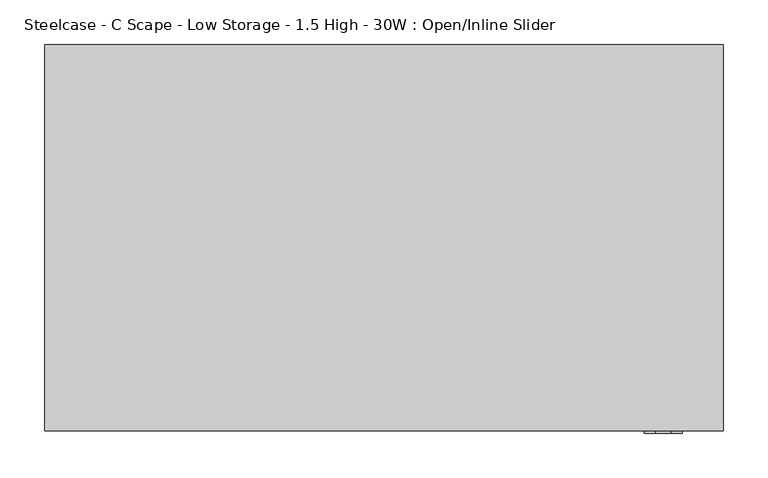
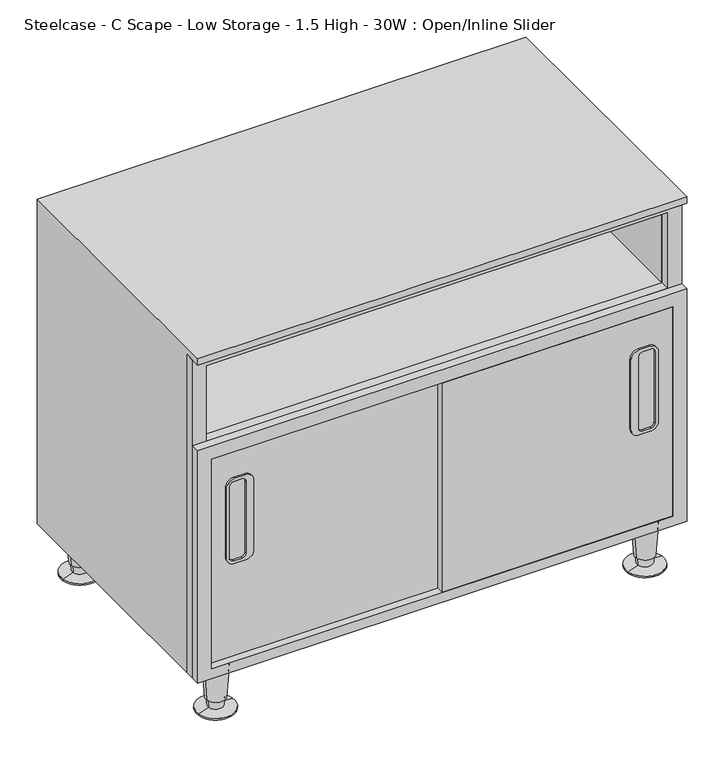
"""IFC4 building model written with IfcOpenShell, lengths in millimetres: furniture geometry, Steelcase - C Scape - Low Storage - 1.5 High - 30W : Open/Inline Slider."""

from ifc_helpers import new_model, si_unit, point, frame, frame_2d, origin, place, context, project, spatial, polyline, circle_curve, trimmed, segment, composite_curve, outline, extrude, faceted_brep, source, transform, mapped, element, save
from ifc_brep_helpers import plane_surface, cylinder_surface, revolved_surface, advanced_brep


def steelcase_c_scape_low_storage_1_5_high_30w_open_inline_42fbe061(model_context):
    return source(origin(), model_context, "Body", "SolidModel", [
        extrude(outline(composite_curve([segment(trimmed(circle_curve(frame_2d((373.5963095, 685.0136914)), 12.7015503), [point((386.2978598, 685.0136914))], [point((373.5963095, 672.3121411))], False, "CARTESIAN"), True, "CONTINUOUS"), segment(polyline([(373.5963095, 672.3121411), (259.2993979, 672.3121411)]), True, "CONTINUOUS"), segment(trimmed(circle_curve(frame_2d((259.2993979, 685.0136914)), 12.7015503), [point((259.2993979, 672.3121411))], [point((246.5978477, 685.0136914))], False, "CARTESIAN"), True, "CONTINUOUS"), segment(polyline([(246.5978477, 685.0136914), (246.5978477, 701.902577)]), True, "CONTINUOUS"), segment(trimmed(circle_curve(frame_2d((259.2978537, 701.902577)), 12.7000061), [point((246.5978477, 701.902577))], [point((259.2978537, 714.602583))], False, "CARTESIAN"), True, "CONTINUOUS"), segment(polyline([(259.2978537, 714.602583), (373.6009603, 714.602583)]), True, "CONTINUOUS"), segment(trimmed(circle_curve(frame_2d((373.6009603, 701.9056836)), 12.6968994), [point((373.6009603, 714.602583))], [point((386.2978598, 701.9056836))], False, "CARTESIAN"), True, "CONTINUOUS"), segment(polyline([(386.2978598, 701.9056836), (386.2978598, 685.0136914)]), True, "CONTINUOUS")], self_intersect=False), holes=[composite_curve([segment(trimmed(circle_curve(frame_2d((257.7496016, 703.426521)), 6.3531006), [point((257.7496016, 709.7796216))], [point((251.396501, 703.426521))], True, "CARTESIAN"), True, "CONTINUOUS"), segment(polyline([(251.396501, 703.426521), (251.396501, 690.7296216)]), True, "CONTINUOUS"), segment(trimmed(circle_curve(frame_2d((257.7496016, 690.7296216)), 6.3531006), [point((251.396501, 690.7296216))], [point((257.7496016, 684.376521))], True, "CARTESIAN"), True, "CONTINUOUS"), segment(polyline([(257.7496016, 684.376521), (375.0913854, 684.376521)]), True, "CONTINUOUS"), segment(trimmed(circle_curve(frame_2d((375.0913854, 690.7296216)), 6.3531006), [point((375.0913854, 684.376521))], [point((381.444486, 690.7296216))], True, "CARTESIAN"), True, "CONTINUOUS"), segment(polyline([(381.444486, 690.7296216), (381.444486, 703.426521)]), True, "CONTINUOUS"), segment(trimmed(circle_curve(frame_2d((375.0913854, 703.426521)), 6.3531006), [point((381.444486, 703.426521))], [point((375.0913854, 709.7796216))], True, "CARTESIAN"), True, "CONTINUOUS"), segment(polyline([(375.0913854, 709.7796216), (257.7496016, 709.7796216)]), True, "CONTINUOUS")], self_intersect=False)]), frame((0.0, -436.1182586, 0.0), z_axis=(0.0, 1.0, 0.0), x_axis=(0.0, 0.0, 1.0)), (0.0, 0.0, 1.0), 3.0482586),
        extrude(outline(composite_curve([segment(polyline([(386.2978598, 79.2484961), (386.2978598, 62.3565039)]), True, "CONTINUOUS"), segment(trimmed(circle_curve(frame_2d((373.6009603, 62.3565039)), 12.6968994), [point((386.2978598, 62.3565039))], [point((373.6009603, 49.6596045))], False, "CARTESIAN"), True, "CONTINUOUS"), segment(polyline([(373.6009603, 49.6596045), (259.2978537, 49.6596045)]), True, "CONTINUOUS"), segment(trimmed(circle_curve(frame_2d((259.2978537, 62.3596105)), 12.7000061), [point((259.2978537, 49.6596045))], [point((246.5978477, 62.3596105))], False, "CARTESIAN"), True, "CONTINUOUS"), segment(polyline([(246.5978477, 62.3596105), (246.5978477, 79.2484961)]), True, "CONTINUOUS"), segment(trimmed(circle_curve(frame_2d((259.2993979, 79.2484961)), 12.7015503), [point((246.5978477, 79.2484961))], [point((259.2993979, 91.9500464))], False, "CARTESIAN"), True, "CONTINUOUS"), segment(polyline([(259.2993979, 91.9500464), (373.5963095, 91.9500464)]), True, "CONTINUOUS"), segment(trimmed(circle_curve(frame_2d((373.5963095, 79.2484961)), 12.7015503), [point((373.5963095, 91.9500464))], [point((386.2978598, 79.2484961))], False, "CARTESIAN"), True, "CONTINUOUS")], self_intersect=False), holes=[composite_curve([segment(polyline([(257.7496016, 54.4825659), (375.0913854, 54.4825659)]), True, "CONTINUOUS"), segment(trimmed(circle_curve(frame_2d((375.0913854, 60.8356665)), 6.3531006), [point((375.0913854, 54.4825659))], [point((381.444486, 60.8356665))], True, "CARTESIAN"), True, "CONTINUOUS"), segment(polyline([(381.444486, 60.8356665), (381.444486, 73.5325659)]), True, "CONTINUOUS"), segment(trimmed(circle_curve(frame_2d((375.0913854, 73.5325659)), 6.3531006), [point((381.444486, 73.5325659))], [point((375.0913854, 79.8856665))], True, "CARTESIAN"), True, "CONTINUOUS"), segment(polyline([(375.0913854, 79.8856665), (257.7496016, 79.8856665)]), True, "CONTINUOUS"), segment(trimmed(circle_curve(frame_2d((257.7496016, 73.5325659)), 6.3531006), [point((257.7496016, 79.8856665))], [point((251.396501, 73.5325659))], True, "CARTESIAN"), True, "CONTINUOUS"), segment(polyline([(251.396501, 73.5325659), (251.396501, 60.8356665)]), True, "CONTINUOUS"), segment(trimmed(circle_curve(frame_2d((257.7496016, 60.8356665)), 6.3531006), [point((251.396501, 60.8356665))], [point((257.7496016, 54.4825659))], True, "CARTESIAN"), True, "CONTINUOUS")], self_intersect=False)]), frame((0.0, -424.7213475, 0.0), z_axis=(0.0, 1.0, 0.0), x_axis=(0.0, 0.0, 1.0)), (0.0, 0.0, 1.0), 3.0770066),
        extrude(outline(polyline([(458.7875121, 0.0), (76.2, 0.0), (76.2, 760.73), (458.7875121, 760.73), (458.7875121, 0.0)]), holes=[polyline([(436.8419, 21.3382324), (436.8419, 738.7617285), (92.7100024, 738.7617285), (92.7100024, 21.3382324), (436.8419, 21.3382324)])]), frame((0.0, -433.07, 0.0), z_axis=(0.0, 1.0, 0.0), x_axis=(0.0, 0.0, 1.0)), (0.0, 0.0, 1.0), 13.7159457),
        extrude(outline(polyline([(599.4499291, 0.0), (76.2, 0.0), (76.2, 760.73), (599.4499291, 760.73), (599.4499291, 320.0585382), (599.4499291, 0.0)]), holes=[polyline([(458.7875121, 21.3382324), (582.9399291, 21.3382324), (582.9399291, 738.7617285), (458.7875121, 738.7617285), (458.7875121, 21.3382324)]), polyline([(436.841904, 21.3256814), (436.841904, 738.7617285), (92.7100024, 738.7617285), (92.7100024, 21.3256814), (436.841904, 21.3256814)])]), frame((0.0, -419.3540543, 0.0), z_axis=(0.0, 1.0, 0.0), x_axis=(0.0, 0.0, 1.0)), (0.0, 0.0, 1.0), 14.9860039),
        advanced_brep(
        [(65.5422821, -397.1702762, 76.2), (27.8805432, -402.9325174, 76.2), (46.7114126, -400.0513968, 76.2), (61.5919341, -397.774679, 19.05), (31.8308912, -402.3281146, 19.05), (59.1623471, -398.1464055, 19.05), (34.2604781, -401.9563882, 19.05), (58.4735776, -398.2517871, 5.7545598), (34.9492476, -401.8510065, 5.7545598), (75.8224611, -395.5974102, 2.5119506), (17.6003641, -404.5053834, 2.5119506), (75.8224611, -395.5974102, 0.0), (17.6003641, -404.5053834, 0.0), (46.7114126, -400.0513968, 0.0)],
        [
            (0, 1, circle_curve(frame((46.7114126, -400.0513968, 76.2), z_axis=(0.0, 0.0, 1.0), x_axis=(0.0, -1.0, 0.0)), 19.05)),
            (1, 2),
            (2, 0),
            (1, 0, circle_curve(frame((46.7114126, -400.0513968, 76.2), z_axis=(0.0, 0.0, 1.0), x_axis=(0.0, -1.0, 0.0)), 19.05)),
            (3, 4, circle_curve(frame((46.7114126, -400.0513968, 19.05), z_axis=(0.0, 0.0, 1.0), x_axis=(0.0, -1.0, 0.0)), 15.0536827)),
            (4, 1),
            (0, 3),
            (4, 3, circle_curve(frame((46.7114126, -400.0513968, 19.05), z_axis=(0.0, 0.0, 1.0), x_axis=(0.0, -1.0, 0.0)), 15.0536827)),
            (5, 6, circle_curve(frame((46.7114126, -400.0513968, 19.05), z_axis=(0.0, 0.0, 1.0), x_axis=(0.0, -1.0, 0.0)), 12.5958232)),
            (6, 4),
            (3, 5),
            (6, 5, circle_curve(frame((46.7114126, -400.0513968, 19.05), z_axis=(0.0, 0.0, 1.0), x_axis=(0.0, -1.0, 0.0)), 12.5958232)),
            (7, 8, circle_curve(frame((46.7114126, -400.0513968, 5.7545598), z_axis=(0.0, 0.0, 1.0), x_axis=(0.0, -1.0, 0.0)), 11.8990387)),
            (8, 6),
            (5, 7),
            (8, 7, circle_curve(frame((46.7114126, -400.0513968, 5.7545598), z_axis=(0.0, 0.0, 1.0), x_axis=(0.0, -1.0, 0.0)), 11.8990387)),
            (9, 10, circle_curve(frame((46.7114126, -400.0513968, 2.5119506), z_axis=(0.0, 0.0, 1.0), x_axis=(0.0, -1.0, 0.0)), 29.4498071)),
            (10, 8),
            (7, 9),
            (10, 9, circle_curve(frame((46.7114126, -400.0513968, 2.5119506), z_axis=(0.0, 0.0, 1.0), x_axis=(0.0, -1.0, 0.0)), 29.4498071)),
            (11, 12, circle_curve(frame((46.7114126, -400.0513968, 0.0), z_axis=(0.0, 0.0, 1.0), x_axis=(0.0, -1.0, 0.0)), 29.4498071)),
            (12, 10),
            (9, 11),
            (12, 11, circle_curve(frame((46.7114126, -400.0513968, 0.0), z_axis=(0.0, 0.0, 1.0), x_axis=(0.0, -1.0, 0.0)), 29.4498071)),
            (13, 12),
            (11, 13),
        ],
        [
            plane_surface(frame((46.7114126, -400.0513968, 76.2), z_axis=(0.0, 0.0, 1.0), x_axis=(0.0, -1.0, 0.0))),
            revolved_surface(polyline([(46.7114126, -419.1013968, 76.2), (46.7114126, -415.1050795, 19.05)]), (46.7114126, -400.0513968, 25.4), (0.0, 0.0, -1.0)),
            plane_surface(frame((46.7114126, -400.0513968, 19.05), z_axis=(0.0, 0.0, -1.0), x_axis=(0.0, -1.0, 0.0))),
            revolved_surface(polyline([(46.7114126, -412.64722, 19.05), (46.7114126, -411.9504355, 5.7545598)]), (46.7114126, -400.0513968, 25.4), (0.0, 0.0, -1.0)),
            revolved_surface(polyline([(46.7114126, -411.9504355, 5.7545598), (46.7114126, -429.5012039, 2.5119506)]), (46.7114126, -400.0513968, 25.4), (0.0, 0.0, -1.0)),
            cylinder_surface(frame((46.7114126, -400.0513968, 25.4), z_axis=(0.0, 0.0, -1.0), x_axis=(0.0, -1.0, 0.0)), 29.4498071),
            plane_surface(frame((46.7114126, -400.0513968, 0.0), z_axis=(0.0, 0.0, -1.0), x_axis=(0.0, -1.0, 0.0))),
        ],
        [
            (0, [[1, 2, 3]]),
            (0, [[4, -3, -2]]),
            (1, [[5, 6, -1, 7]]),
            (1, [[8, -7, -4, -6]]),
            (2, [[9, 10, -5, 11]]),
            (2, [[12, -11, -8, -10]]),
            (3, [[13, 14, -9, 15]]),
            (3, [[16, -15, -12, -14]]),
            (4, [[17, 18, -13, 19]]),
            (4, [[20, -19, -16, -18]]),
            (5, [[21, 22, -17, 23]]),
            (5, [[24, -23, -20, -22]]),
            (6, [[25, -21, 26]]),
            (6, [[-26, -24, -25]]),
        ],
    ),
        advanced_brep(
        [(733.4598695, -397.1702762, 76.2), (695.7981305, -402.9325174, 76.2), (714.629, -400.0513968, 76.2), (729.5095214, -397.774679, 19.05), (699.7484786, -402.3281146, 19.05), (727.0799345, -398.1464055, 19.05), (702.1780655, -401.9563882, 19.05), (726.391165, -398.2517871, 5.7545598), (702.866835, -401.8510065, 5.7545598), (743.7400485, -395.5974102, 2.5119506), (685.5179515, -404.5053834, 2.5119506), (743.7400485, -395.5974102, 0.0), (685.5179515, -404.5053834, 0.0), (714.629, -400.0513968, 0.0)],
        [
            (0, 1, circle_curve(frame((714.629, -400.0513968, 76.2), z_axis=(0.0, 0.0, 1.0), x_axis=(0.0, -1.0, 0.0)), 19.05)),
            (1, 2),
            (2, 0),
            (1, 0, circle_curve(frame((714.629, -400.0513968, 76.2), z_axis=(0.0, 0.0, 1.0), x_axis=(0.0, -1.0, 0.0)), 19.05)),
            (3, 4, circle_curve(frame((714.629, -400.0513968, 19.05), z_axis=(0.0, 0.0, 1.0), x_axis=(0.0, -1.0, 0.0)), 15.0536827)),
            (4, 1),
            (0, 3),
            (4, 3, circle_curve(frame((714.629, -400.0513968, 19.05), z_axis=(0.0, 0.0, 1.0), x_axis=(0.0, -1.0, 0.0)), 15.0536827)),
            (5, 6, circle_curve(frame((714.629, -400.0513968, 19.05), z_axis=(0.0, 0.0, 1.0), x_axis=(0.0, -1.0, 0.0)), 12.5958232)),
            (6, 4),
            (3, 5),
            (6, 5, circle_curve(frame((714.629, -400.0513968, 19.05), z_axis=(0.0, 0.0, 1.0), x_axis=(0.0, -1.0, 0.0)), 12.5958232)),
            (7, 8, circle_curve(frame((714.629, -400.0513968, 5.7545598), z_axis=(0.0, 0.0, 1.0), x_axis=(0.0, -1.0, 0.0)), 11.8990387)),
            (8, 6),
            (5, 7),
            (8, 7, circle_curve(frame((714.629, -400.0513968, 5.7545598), z_axis=(0.0, 0.0, 1.0), x_axis=(0.0, -1.0, 0.0)), 11.8990387)),
            (9, 10, circle_curve(frame((714.629, -400.0513968, 2.5119506), z_axis=(0.0, 0.0, 1.0), x_axis=(0.0, -1.0, 0.0)), 29.4498071)),
            (10, 8),
            (7, 9),
            (10, 9, circle_curve(frame((714.629, -400.0513968, 2.5119506), z_axis=(0.0, 0.0, 1.0), x_axis=(0.0, -1.0, 0.0)), 29.4498071)),
            (11, 12, circle_curve(frame((714.629, -400.0513968, 0.0), z_axis=(0.0, 0.0, 1.0), x_axis=(0.0, -1.0, 0.0)), 29.4498071)),
            (12, 10),
            (9, 11),
            (12, 11, circle_curve(frame((714.629, -400.0513968, 0.0), z_axis=(0.0, 0.0, 1.0), x_axis=(0.0, -1.0, 0.0)), 29.4498071)),
            (13, 12),
            (11, 13),
        ],
        [
            plane_surface(frame((714.629, -400.0513968, 76.2), z_axis=(0.0, 0.0, 1.0), x_axis=(0.0, -1.0, 0.0))),
            revolved_surface(polyline([(714.629, -419.1013968, 76.2), (714.629, -415.1050795, 19.05)]), (714.629, -400.0513968, 25.4), (0.0, 0.0, -1.0)),
            plane_surface(frame((714.629, -400.0513968, 19.05), z_axis=(0.0, 0.0, -1.0), x_axis=(0.0, -1.0, 0.0))),
            revolved_surface(polyline([(714.629, -412.64722, 19.05), (714.629, -411.9504355, 5.7545598)]), (714.629, -400.0513968, 25.4), (0.0, 0.0, -1.0)),
            revolved_surface(polyline([(714.629, -411.9504355, 5.7545598), (714.629, -429.5012039, 2.5119506)]), (714.629, -400.0513968, 25.4), (0.0, 0.0, -1.0)),
            cylinder_surface(frame((714.629, -400.0513968, 25.4), z_axis=(0.0, 0.0, -1.0), x_axis=(0.0, -1.0, 0.0)), 29.4498071),
            plane_surface(frame((714.629, -400.0513968, 0.0), z_axis=(0.0, 0.0, -1.0), x_axis=(0.0, -1.0, 0.0))),
        ],
        [
            (0, [[1, 2, 3]]),
            (0, [[4, -3, -2]]),
            (1, [[5, 6, -1, 7]]),
            (1, [[8, -7, -4, -6]]),
            (2, [[9, 10, -5, 11]]),
            (2, [[12, -11, -8, -10]]),
            (3, [[13, 14, -9, 15]]),
            (3, [[16, -15, -12, -14]]),
            (4, [[17, 18, -13, 19]]),
            (4, [[20, -19, -16, -18]]),
            (5, [[21, 22, -17, 23]]),
            (5, [[24, -23, -20, -22]]),
            (6, [[25, -21, 26]]),
            (6, [[-26, -24, -25]]),
        ],
    ),
        advanced_brep(
        [(733.4598695, -31.5218435, 76.2), (695.7981305, -37.2840847, 76.2), (714.629, -34.4029641, 76.2), (729.5095214, -32.1262463, 19.05), (699.7484786, -36.6796819, 19.05), (727.0799345, -32.4979728, 19.05), (702.1780655, -36.3079555, 19.05), (726.391165, -32.6033544, 5.7545598), (702.866835, -36.2025738, 5.7545598), (743.7400485, -29.9489775, 2.5119506), (685.5179515, -38.8569507, 2.5119506), (743.7400485, -29.9489775, 0.0), (685.5179515, -38.8569507, 0.0), (714.629, -34.4029641, 0.0)],
        [
            (0, 1, circle_curve(frame((714.629, -34.4029641, 76.2), z_axis=(0.0, 0.0, 1.0), x_axis=(0.0, -1.0, 0.0)), 19.05)),
            (1, 2),
            (2, 0),
            (1, 0, circle_curve(frame((714.629, -34.4029641, 76.2), z_axis=(0.0, 0.0, 1.0), x_axis=(0.0, -1.0, 0.0)), 19.05)),
            (3, 4, circle_curve(frame((714.629, -34.4029641, 19.05), z_axis=(0.0, 0.0, 1.0), x_axis=(0.0, -1.0, 0.0)), 15.0536827)),
            (4, 1),
            (0, 3),
            (4, 3, circle_curve(frame((714.629, -34.4029641, 19.05), z_axis=(0.0, 0.0, 1.0), x_axis=(0.0, -1.0, 0.0)), 15.0536827)),
            (5, 6, circle_curve(frame((714.629, -34.4029641, 19.05), z_axis=(0.0, 0.0, 1.0), x_axis=(0.0, -1.0, 0.0)), 12.5958232)),
            (6, 4),
            (3, 5),
            (6, 5, circle_curve(frame((714.629, -34.4029641, 19.05), z_axis=(0.0, 0.0, 1.0), x_axis=(0.0, -1.0, 0.0)), 12.5958232)),
            (7, 8, circle_curve(frame((714.629, -34.4029641, 5.7545598), z_axis=(0.0, 0.0, 1.0), x_axis=(0.0, -1.0, 0.0)), 11.8990387)),
            (8, 6),
            (5, 7),
            (8, 7, circle_curve(frame((714.629, -34.4029641, 5.7545598), z_axis=(0.0, 0.0, 1.0), x_axis=(0.0, -1.0, 0.0)), 11.8990387)),
            (9, 10, circle_curve(frame((714.629, -34.4029641, 2.5119506), z_axis=(0.0, 0.0, 1.0), x_axis=(0.0, -1.0, 0.0)), 29.4498071)),
            (10, 8),
            (7, 9),
            (10, 9, circle_curve(frame((714.629, -34.4029641, 2.5119506), z_axis=(0.0, 0.0, 1.0), x_axis=(0.0, -1.0, 0.0)), 29.4498071)),
            (11, 12, circle_curve(frame((714.629, -34.4029641, 0.0), z_axis=(0.0, 0.0, 1.0), x_axis=(0.0, -1.0, 0.0)), 29.4498071)),
            (12, 10),
            (9, 11),
            (12, 11, circle_curve(frame((714.629, -34.4029641, 0.0), z_axis=(0.0, 0.0, 1.0), x_axis=(0.0, -1.0, 0.0)), 29.4498071)),
            (13, 12),
            (11, 13),
        ],
        [
            plane_surface(frame((714.629, -34.4029641, 76.2), z_axis=(0.0, 0.0, 1.0), x_axis=(0.0, -1.0, 0.0))),
            revolved_surface(polyline([(714.629, -53.4529641, 76.2), (714.629, -49.4566468, 19.05)]), (714.629, -34.4029641, 25.4), (0.0, 0.0, -1.0)),
            plane_surface(frame((714.629, -34.4029641, 19.05), z_axis=(0.0, 0.0, -1.0), x_axis=(0.0, -1.0, 0.0))),
            revolved_surface(polyline([(714.629, -46.9987873, 19.05), (714.629, -46.3020028, 5.7545598)]), (714.629, -34.4029641, 25.4), (0.0, 0.0, -1.0)),
            revolved_surface(polyline([(714.629, -46.3020028, 5.7545598), (714.629, -63.8527712, 2.5119506)]), (714.629, -34.4029641, 25.4), (0.0, 0.0, -1.0)),
            cylinder_surface(frame((714.629, -34.4029641, 25.4), z_axis=(0.0, 0.0, -1.0), x_axis=(0.0, -1.0, 0.0)), 29.4498071),
            plane_surface(frame((714.629, -34.4029641, 0.0), z_axis=(0.0, 0.0, -1.0), x_axis=(0.0, -1.0, 0.0))),
        ],
        [
            (0, [[1, 2, 3]]),
            (0, [[4, -3, -2]]),
            (1, [[5, 6, -1, 7]]),
            (1, [[8, -7, -4, -6]]),
            (2, [[9, 10, -5, 11]]),
            (2, [[12, -11, -8, -10]]),
            (3, [[13, 14, -9, 15]]),
            (3, [[16, -15, -12, -14]]),
            (4, [[17, 18, -13, 19]]),
            (4, [[20, -19, -16, -18]]),
            (5, [[21, 22, -17, 23]]),
            (5, [[24, -23, -20, -22]]),
            (6, [[25, -21, 26]]),
            (6, [[-26, -24, -25]]),
        ],
    ),
        advanced_brep(
        [(65.5422821, -31.5218435, 76.2), (27.8805432, -37.2840847, 76.2), (46.7114126, -34.4029641, 76.2), (61.5919341, -32.1262463, 19.05), (31.8308912, -36.6796819, 19.05), (59.1623471, -32.4979728, 19.05), (34.2604781, -36.3079555, 19.05), (58.4735776, -32.6033544, 5.7545598), (34.9492476, -36.2025738, 5.7545598), (75.8224611, -29.9489775, 2.5119506), (17.6003641, -38.8569507, 2.5119506), (75.8224611, -29.9489775, 0.0), (17.6003641, -38.8569507, 0.0), (46.7114126, -34.4029641, 0.0)],
        [
            (0, 1, circle_curve(frame((46.7114126, -34.4029641, 76.2), z_axis=(0.0, 0.0, 1.0), x_axis=(0.0, -1.0, 0.0)), 19.05)),
            (1, 2),
            (2, 0),
            (1, 0, circle_curve(frame((46.7114126, -34.4029641, 76.2), z_axis=(0.0, 0.0, 1.0), x_axis=(0.0, -1.0, 0.0)), 19.05)),
            (3, 4, circle_curve(frame((46.7114126, -34.4029641, 19.05), z_axis=(0.0, 0.0, 1.0), x_axis=(0.0, -1.0, 0.0)), 15.0536827)),
            (4, 1),
            (0, 3),
            (4, 3, circle_curve(frame((46.7114126, -34.4029641, 19.05), z_axis=(0.0, 0.0, 1.0), x_axis=(0.0, -1.0, 0.0)), 15.0536827)),
            (5, 6, circle_curve(frame((46.7114126, -34.4029641, 19.05), z_axis=(0.0, 0.0, 1.0), x_axis=(0.0, -1.0, 0.0)), 12.5958232)),
            (6, 4),
            (3, 5),
            (6, 5, circle_curve(frame((46.7114126, -34.4029641, 19.05), z_axis=(0.0, 0.0, 1.0), x_axis=(0.0, -1.0, 0.0)), 12.5958232)),
            (7, 8, circle_curve(frame((46.7114126, -34.4029641, 5.7545598), z_axis=(0.0, 0.0, 1.0), x_axis=(0.0, -1.0, 0.0)), 11.8990387)),
            (8, 6),
            (5, 7),
            (8, 7, circle_curve(frame((46.7114126, -34.4029641, 5.7545598), z_axis=(0.0, 0.0, 1.0), x_axis=(0.0, -1.0, 0.0)), 11.8990387)),
            (9, 10, circle_curve(frame((46.7114126, -34.4029641, 2.5119506), z_axis=(0.0, 0.0, 1.0), x_axis=(0.0, -1.0, 0.0)), 29.4498071)),
            (10, 8),
            (7, 9),
            (10, 9, circle_curve(frame((46.7114126, -34.4029641, 2.5119506), z_axis=(0.0, 0.0, 1.0), x_axis=(0.0, -1.0, 0.0)), 29.4498071)),
            (11, 12, circle_curve(frame((46.7114126, -34.4029641, 0.0), z_axis=(0.0, 0.0, 1.0), x_axis=(0.0, -1.0, 0.0)), 29.4498071)),
            (12, 10),
            (9, 11),
            (12, 11, circle_curve(frame((46.7114126, -34.4029641, 0.0), z_axis=(0.0, 0.0, 1.0), x_axis=(0.0, -1.0, 0.0)), 29.4498071)),
            (13, 12),
            (11, 13),
        ],
        [
            plane_surface(frame((46.7114126, -34.4029641, 76.2), z_axis=(0.0, 0.0, 1.0), x_axis=(0.0, -1.0, 0.0))),
            revolved_surface(polyline([(46.7114126, -53.4529641, 76.2), (46.7114126, -49.4566468, 19.05)]), (46.7114126, -34.4029641, 25.4), (0.0, 0.0, -1.0)),
            plane_surface(frame((46.7114126, -34.4029641, 19.05), z_axis=(0.0, 0.0, -1.0), x_axis=(0.0, -1.0, 0.0))),
            revolved_surface(polyline([(46.7114126, -46.9987873, 19.05), (46.7114126, -46.3020028, 5.7545598)]), (46.7114126, -34.4029641, 25.4), (0.0, 0.0, -1.0)),
            revolved_surface(polyline([(46.7114126, -46.3020028, 5.7545598), (46.7114126, -63.8527712, 2.5119506)]), (46.7114126, -34.4029641, 25.4), (0.0, 0.0, -1.0)),
            cylinder_surface(frame((46.7114126, -34.4029641, 25.4), z_axis=(0.0, 0.0, -1.0), x_axis=(0.0, -1.0, 0.0)), 29.4498071),
            plane_surface(frame((46.7114126, -34.4029641, 0.0), z_axis=(0.0, 0.0, -1.0), x_axis=(0.0, -1.0, 0.0))),
        ],
        [
            (0, [[1, 2, 3]]),
            (0, [[4, -3, -2]]),
            (1, [[5, 6, -1, 7]]),
            (1, [[8, -7, -4, -6]]),
            (2, [[9, 10, -5, 11]]),
            (2, [[12, -11, -8, -10]]),
            (3, [[13, 14, -9, 15]]),
            (3, [[16, -15, -12, -14]]),
            (4, [[17, 18, -13, 19]]),
            (4, [[20, -19, -16, -18]]),
            (5, [[21, 22, -17, 23]]),
            (5, [[24, -23, -20, -22]]),
            (6, [[25, -21, 26]]),
            (6, [[-26, -24, -25]]),
        ],
    ),
        extrude(outline(polyline([(380.0475, -421.6443408), (738.7617285, -421.6443408), (738.7617285, -433.07), (380.0475, -433.07), (380.0475, -421.6443408)])), frame((0.0, 0.0, 92.7100024), z_axis=(0.0, 0.0, 1.0), x_axis=(1.0, 0.0, 0.0)), (0.0, 0.0, 1.0), 344.1318976),
        extrude(outline(polyline([(380.0475, -415.2912402), (380.0475, -421.6443408), (21.3382324, -421.6443408), (21.3382324, -415.2912402), (380.0475, -415.2912402)])), frame((0.0, 0.0, 92.7100024), z_axis=(0.0, 0.0, 1.0), x_axis=(1.0, 0.0, 0.0)), (0.0, 0.0, 1.0), 344.1318976),
        faceted_brep([(760.73, 0.0, 609.6), (0.0, 0.0, 609.6), (0.0, -433.07, 609.6), (760.73, -433.07, 609.6), (760.73, 0.0, 458.7875121), (760.73, 0.0, 450.8499879), (760.73, 0.0, 76.2), (0.0, 0.0, 76.2), (0.0, 0.0, 450.8499879), (0.0, 0.0, 458.7875121), (0.0, -404.3680504, 76.2), (0.0, -404.3680504, 599.4499291), (0.0, -433.07, 599.4499291), (760.73, -433.07, 599.4499291), (760.73, -404.3680504, 599.4499291), (760.73, -404.3680504, 76.2), (21.3382324, -404.3680504, 92.7100024), (21.3382324, -9.525, 92.7100024), (21.3382324, -9.525, 450.8499879), (21.3382324, -404.3680504, 450.8499879), (21.3382324, -9.525, 599.4499291), (21.3382324, -404.3680504, 599.4499291), (21.3382324, -404.3680504, 458.7875121), (21.3382324, -9.525, 458.7875121), (738.7617285, -9.525, 92.7100024), (738.7617285, -9.525, 450.8499879), (738.7617285, -9.525, 599.4499291), (738.7617285, -9.525, 458.7875121), (738.7617285, -404.3680504, 92.7100024), (738.7617285, -404.3680504, 450.8499879), (738.7617285, -404.3680504, 599.4499291), (738.7617285, -404.3680504, 458.7875121)], [[[0, 1, 2, 3]], [[1, 0, 4, 5, 6, 7, 8, 9]], [[2, 1, 9, 8, 7, 10, 11, 12]], [[3, 2, 12, 13]], [[0, 3, 13, 14, 15, 6, 5, 4]], [[16, 17, 18, 19]], [[20, 21, 22, 23]], [[17, 24, 25, 18]], [[26, 20, 23, 27]], [[24, 28, 29, 25]], [[30, 26, 27, 31]], [[16, 28, 24, 17]], [[6, 15, 10, 7]], [[22, 31, 27, 23]], [[29, 19, 18, 25]], [[10, 15, 14, 30, 31, 22, 21, 11], [16, 19, 29, 28]], [[13, 12, 11, 21, 20, 26, 30, 14]]]),
    ])


if __name__ == "__main__":
    model = new_model("IFC4")
    model_context = context("Model", 3, world=origin())
    ifc_project = project(units=[si_unit("LENGTHUNIT", "METRE", prefix="MILLI")], contexts=[model_context])
    site = spatial("IfcSite", under=ifc_project)
    building = spatial("IfcBuilding", under=site)
    placement = place(None, origin())
    steelcase_c_scape_low_storage_1_5_high_30w_open_inline_shape = steelcase_c_scape_low_storage_1_5_high_30w_open_inline_42fbe061(model_context)
    element("IfcFurniture", 1, ObjectType="Steelcase - C Scape - Low Storage - 1.5 High - 30W : Open/Inline Slider", at=placement, inside=building, context=model_context, shape_type="MappedRepresentation", body=[
        mapped(steelcase_c_scape_low_storage_1_5_high_30w_open_inline_shape, transform((0.0, 0.0, 0.0), x_axis=(1.0, 0.0, 0.0), y_axis=(0.0, 1.0, 0.0), z_axis=(0.0, 0.0, 1.0))),
    ])
    save(model, "model.ifc")
